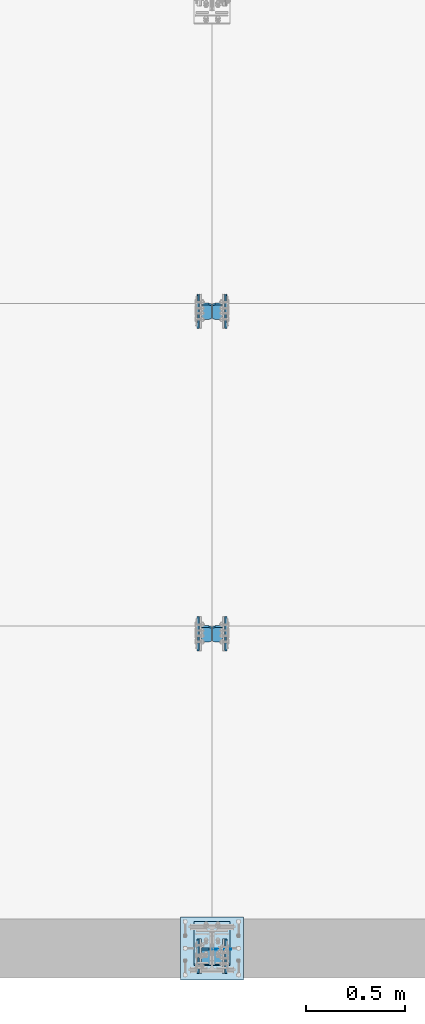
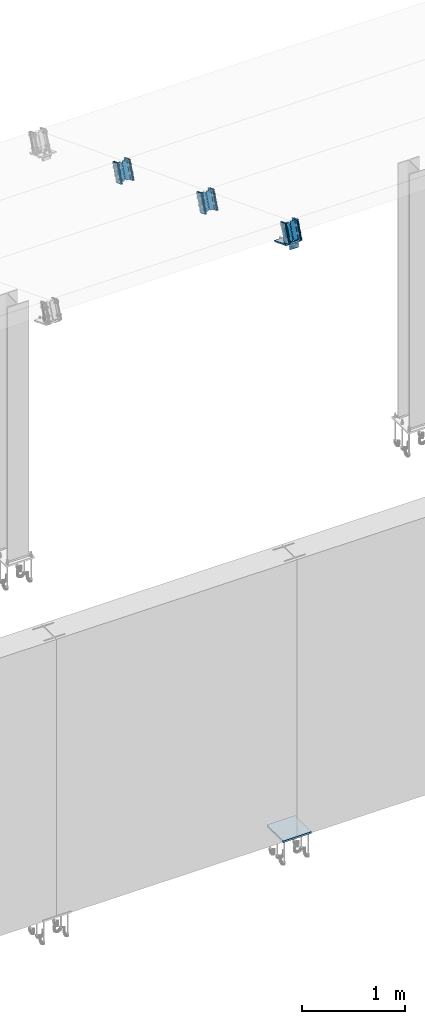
# One storey, part 5 of 72: 21 plates.
"""IFC4 building model written with IfcOpenShell, lengths in metres."""

from ifc_helpers import new_model, si_unit, frame, origin_with_axes, place, context, project, spatial, polyline, outline, extrude, type_object, element, save


model = new_model("IFC4")

# Units and contexts
model_context = context("Model", 3, precision=1e-05, world=origin_with_axes())
ifc_project = project(units=[si_unit("LENGTHUNIT", "METRE"), si_unit("AREAUNIT", "SQUARE_METRE"), si_unit("VOLUMEUNIT", "CUBIC_METRE"), si_unit("MASSUNIT", "GRAM", prefix="KILO"), si_unit("TIMEUNIT", "SECOND"), si_unit("PLANEANGLEUNIT", "RADIAN"), si_unit("SOLIDANGLEUNIT", "STERADIAN"), si_unit("THERMODYNAMICTEMPERATUREUNIT", "DEGREE_CELSIUS")], contexts=[model_context])

# Site, building, storey
placement_1 = place(None, origin_with_axes())
site = spatial("IfcSite", under=ifc_project, at=placement_1, Name="Italia", CompositionType="ELEMENT")
building = spatial("IfcBuilding", under=site, at=placement_1, Name="Uffici", CompositionType="ELEMENT")
storey = spatial("IfcBuildingStorey", under=building, at=placement_1, Name="Storey 0", CompositionType="ELEMENT", Elevation=0.0)

# Plates
plate_type_1 = type_object("IfcPlateType", Name="Collegamento -019_-018", PredefinedType="SHEET")
placement_2 = place(placement_1, origin_with_axes())
plate_1_placement = place(placement_2, origin_with_axes())
element("IfcPlate", 1, at=plate_1_placement, inside=storey, type_object=plate_type_1, Name="Collegamento -019_-018", context=model_context, shape_type="SweptSolid", body=[
    extrude(outline(polyline([(0.0, 0.0), (-0.0932386, 0.0361462), (-0.0137169, 0.241271), (0.0795217, 0.205125), (0.0, 0.0)])), frame((9.39, 3.23376, 5.75013), z_axis=(1.0, 0.0, 0.0), x_axis=(0.0, 1.0, 0.0)), (0.0, 0.0, 1.0), 0.0100002),
])
plate_type_2 = type_object("IfcPlateType", Name="Collegamento -019_-018", PredefinedType="SHEET")
plate_2_placement = place(placement_2, origin_with_axes())
element("IfcPlate", 2, at=plate_2_placement, inside=storey, type_object=plate_type_2, Name="Collegamento -019_-018", context=model_context, shape_type="SweptSolid", body=[
    extrude(outline(polyline([(0.0, 0.0), (-0.0932386, 0.0361462), (-0.0137169, 0.241271), (0.0795217, 0.205125), (0.0, 0.0)])), frame((9.38, 3.23376, 5.75013), z_axis=(1.0, 0.0, 0.0), x_axis=(0.0, 1.0, 0.0)), (0.0, 0.0, 1.0), 0.0100002),
])
plate_type_3 = type_object("IfcPlateType", Name="Collegamento -019_-018", PredefinedType="SHEET")
plate_3_placement = place(placement_2, origin_with_axes())
element("IfcPlate", 3, at=plate_3_placement, inside=storey, type_object=plate_type_3, Name="Collegamento -019_-018", context=model_context, shape_type="SweptSolid", body=[
    extrude(outline(polyline([(0.0, 0.0), (0.0400496, 0.0), (0.0520496, 0.0120006), (0.0520496, 0.189601), (0.0400496, 0.201601), (0.0, 0.201601), (0.0, 0.0)])), frame((9.4, 3.19513, 5.77498), z_axis=(0.0, -0.93237692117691, 0.361487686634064), x_axis=(1.0, 0.0, 0.0)), (0.0, 0.0, 1.0), 0.0100001),
])
plate_type_4 = type_object("IfcPlateType", Name="Collegamento -019_-020", PredefinedType="SHEET")
plate_4_placement = place(placement_2, origin_with_axes())
element("IfcPlate", 4, at=plate_4_placement, inside=storey, type_object=plate_type_4, Name="Collegamento -019_-020", context=model_context, shape_type="SweptSolid", body=[
    extrude(outline(polyline([(0.0, 0.0), (-0.0932386, -0.0361462), (-0.17276, 0.168979), (-0.0795217, 0.205125), (0.0, 0.0)])), frame((9.52, 3.14053, 5.78628), z_axis=(-1.0, 0.0, 0.0), x_axis=(0.0, -1.0, 0.0)), (0.0, 0.0, 1.0), 0.0100002),
])
plate_type_5 = type_object("IfcPlateType", Name="Collegamento -019_-020", PredefinedType="SHEET")
plate_5_placement = place(placement_2, origin_with_axes())
element("IfcPlate", 5, at=plate_5_placement, inside=storey, type_object=plate_type_5, Name="Collegamento -019_-020", context=model_context, shape_type="SweptSolid", body=[
    extrude(outline(polyline([(0.0, 0.0), (-0.0932386, -0.0361462), (-0.17276, 0.168979), (-0.0795217, 0.205125), (0.0, 0.0)])), frame((9.53, 3.14053, 5.78628), z_axis=(-1.0, 0.0, 0.0), x_axis=(0.0, -1.0, 0.0)), (0.0, 0.0, 1.0), 0.0100002),
])
plate_type_6 = type_object("IfcPlateType", Name="Collegamento -019_-020", PredefinedType="SHEET")
plate_6_placement = place(placement_2, origin_with_axes())
element("IfcPlate", 6, at=plate_6_placement, inside=storey, type_object=plate_type_6, Name="Collegamento -019_-020", context=model_context, shape_type="SweptSolid", body=[
    extrude(outline(polyline([(0.0, 0.0), (0.0400496, 0.0), (0.0520496, 0.0120001), (0.0520496, 0.1896), (0.0400496, 0.2016), (0.0, 0.2016), (0.0, 0.0)])), frame((9.51, 3.18581, 5.77859), z_axis=(0.0, 0.93237692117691, -0.361487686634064), x_axis=(-1.0, 0.0, 0.0)), (0.0, 0.0, 1.0), 0.0100001),
])
plate_type_7 = type_object("IfcPlateType", Name="Collegamento -029_-028", PredefinedType="SHEET")
plate_7_placement = place(placement_2, origin_with_axes())
element("IfcPlate", 7, at=plate_7_placement, inside=storey, type_object=plate_type_7, Name="Collegamento -029_-028", context=model_context, shape_type="SweptSolid", body=[
    extrude(outline(polyline([(0.0, 0.0), (-0.0932387, 0.0361462), (-0.0137168, 0.241272), (0.0795219, 0.205126), (0.0, 0.0)])), frame((9.39, 1.60043, 6.38347), z_axis=(1.0, 0.0, 0.0), x_axis=(0.0, 1.0, 0.0)), (0.0, 0.0, 1.0), 0.0100002),
])
plate_type_8 = type_object("IfcPlateType", Name="Collegamento -029_-028", PredefinedType="SHEET")
plate_8_placement = place(placement_2, origin_with_axes())
element("IfcPlate", 8, at=plate_8_placement, inside=storey, type_object=plate_type_8, Name="Collegamento -029_-028", context=model_context, shape_type="SweptSolid", body=[
    extrude(outline(polyline([(0.0, 0.0), (-0.0932387, 0.0361462), (-0.0137168, 0.241272), (0.0795219, 0.205126), (0.0, 0.0)])), frame((9.38, 1.60043, 6.38347), z_axis=(1.0, 0.0, 0.0), x_axis=(0.0, 1.0, 0.0)), (0.0, 0.0, 1.0), 0.0100002),
])
plate_type_9 = type_object("IfcPlateType", Name="Collegamento -029_-028", PredefinedType="SHEET")
plate_9_placement = place(placement_2, origin_with_axes())
element("IfcPlate", 9, at=plate_9_placement, inside=storey, type_object=plate_type_9, Name="Collegamento -029_-028", context=model_context, shape_type="SweptSolid", body=[
    extrude(outline(polyline([(0.0, 0.0), (0.0400496, 0.0), (0.0520496, 0.0120001), (0.0520496, 0.1896), (0.0400496, 0.2016), (0.0, 0.2016), (0.0, 0.0)])), frame((9.4, 1.5618, 6.40831), z_axis=(0.0, -0.93237692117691, 0.361487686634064), x_axis=(1.0, 0.0, 0.0)), (0.0, 0.0, 1.0), 0.0100001),
])
plate_type_10 = type_object("IfcPlateType", Name="Collegamento -029_-030", PredefinedType="SHEET")
plate_10_placement = place(placement_2, origin_with_axes())
element("IfcPlate", 10, at=plate_10_placement, inside=storey, type_object=plate_type_10, Name="Collegamento -029_-030", context=model_context, shape_type="SweptSolid", body=[
    extrude(outline(polyline([(0.0, 0.0), (-0.0932387, -0.0361462), (-0.172761, 0.16898), (-0.0795219, 0.205126), (0.0, 0.0)])), frame((9.52, 1.50719, 6.41961), z_axis=(-1.0, 0.0, 0.0), x_axis=(0.0, -1.0, 0.0)), (0.0, 0.0, 1.0), 0.0100002),
])
plate_type_11 = type_object("IfcPlateType", Name="Collegamento -029_-030", PredefinedType="SHEET")
plate_11_placement = place(placement_2, origin_with_axes())
element("IfcPlate", 11, at=plate_11_placement, inside=storey, type_object=plate_type_11, Name="Collegamento -029_-030", context=model_context, shape_type="SweptSolid", body=[
    extrude(outline(polyline([(0.0, 0.0), (-0.0932387, -0.0361462), (-0.172761, 0.16898), (-0.0795219, 0.205126), (0.0, 0.0)])), frame((9.53, 1.50719, 6.41961), z_axis=(-1.0, 0.0, 0.0), x_axis=(0.0, -1.0, 0.0)), (0.0, 0.0, 1.0), 0.0100002),
])
plate_type_12 = type_object("IfcPlateType", Name="Collegamento -029_-030", PredefinedType="SHEET")
plate_12_placement = place(placement_2, origin_with_axes())
element("IfcPlate", 12, at=plate_12_placement, inside=storey, type_object=plate_type_12, Name="Collegamento -029_-030", context=model_context, shape_type="SweptSolid", body=[
    extrude(outline(polyline([(0.0, 0.0), (0.0400496, 0.0), (0.0520496, 0.0119996), (0.0520496, 0.1896), (0.0400496, 0.2016), (0.0, 0.2016), (0.0, 0.0)])), frame((9.51, 1.55248, 6.41193), z_axis=(0.0, 0.93237692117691, -0.361487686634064), x_axis=(-1.0, 0.0, 0.0)), (0.0, 0.0, 1.0), 0.0100001),
])
plate_type_13 = type_object("IfcPlateType", Name="Collegamenti 0001_0101 0002_0102 0003_0103 0004_0104 0005_0105 0011_0111 0012_0112 0013_0113 0014_0114 0015_0115", PredefinedType="SHEET")
plate_13_placement = place(placement_2, origin_with_axes())
element("IfcPlate", 13, at=plate_13_placement, inside=storey, type_object=plate_type_13, Name="Collegamenti 0001_0101 0002_0102 0003_0103 0004_0104 0005_0105 0011_0111 0012_0112 0013_0113 0014_0114 0015_0115", context=model_context, shape_type="SweptSolid", body=[
    extrude(outline(polyline([(0.0, 0.0), (0.0, 0.32), (0.32, 0.32), (0.32, 0.0), (0.0, 0.0)])), frame((9.295, -0.16, 0.02), z_axis=(0.0, 0.0, -1.0), x_axis=(0.0, 1.0, 0.0)), (0.0, 0.0, 1.0), 0.02),
])
plate_type_14 = type_object("IfcPlateType", Name="Collegamento 0204_0104", PredefinedType="SHEET")
plate_14_placement = place(placement_2, origin_with_axes())
element("IfcPlate", 14, at=plate_14_placement, inside=storey, type_object=plate_type_14, Name="Collegamento 0204_0104", context=model_context, shape_type="SweptSolid", body=[
    extrude(outline(polyline([(0.0, 0.0), (0.18, 0.0), (0.18, -0.23341), (0.0, -0.23341), (0.0, 0.0)])), frame((9.545, -0.0855034, 7.02111), z_axis=(0.0, 0.361523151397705, 0.932363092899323), x_axis=(-1.0, 0.0, 0.0)), (0.0, 0.0, 1.0), 0.0150002),
])
plate_type_15 = type_object("IfcPlateType", Name="Collegamento 0204_0105", PredefinedType="SHEET")
plate_15_placement = place(placement_2, origin_with_axes())
element("IfcPlate", 15, at=plate_15_placement, inside=storey, type_object=plate_type_15, Name="Collegamento 0204_0105", context=model_context, shape_type="SweptSolid", body=[
    extrude(outline(polyline([(0.0, 0.0), (0.0949993, 4.76837e-07), (0.0949993, -0.099), (-9.53674e-07, -0.0989995), (0.0, 0.0)])), frame((9.553, -0.0075, 6.98887), z_axis=(0.0, 1.0, 0.0), x_axis=(-1.0, 0.0, 0.0)), (0.0, 0.0, 1.0), 0.005),
])
plate_type_16 = type_object("IfcPlateType", Name="Collegamento 0204_0203", PredefinedType="SHEET")
plate_16_placement = place(placement_2, origin_with_axes())
element("IfcPlate", 16, at=plate_16_placement, inside=storey, type_object=plate_type_16, Name="Collegamento 0204_0203", context=model_context, shape_type="SweptSolid", body=[
    extrude(outline(polyline([(0.0, 0.0), (-0.0932387, 0.0361462), (-0.0137157, 0.241275), (0.079523, 0.205129), (0.0, 0.0)])), frame((9.39, -0.0329024, 7.0168), z_axis=(1.0, 0.0, 0.0), x_axis=(0.0, 1.0, 0.0)), (0.0, 0.0, 1.0), 0.0100002),
])
plate_type_17 = type_object("IfcPlateType", Name="Collegamento 0204_0203", PredefinedType="SHEET")
plate_17_placement = place(placement_2, origin_with_axes())
element("IfcPlate", 17, at=plate_17_placement, inside=storey, type_object=plate_type_17, Name="Collegamento 0204_0203", context=model_context, shape_type="SweptSolid", body=[
    extrude(outline(polyline([(0.0, 0.0), (-0.0932387, 0.0361462), (-0.013717, 0.241272), (0.0795217, 0.205126), (0.0, 0.0)])), frame((9.38, -0.0329024, 7.0168), z_axis=(1.0, 0.0, 0.0), x_axis=(0.0, 1.0, 0.0)), (0.0, 0.0, 1.0), 0.0100002),
])
plate_type_18 = type_object("IfcPlateType", Name="Collegamento 0204_0203", PredefinedType="SHEET")
plate_18_placement = place(placement_2, origin_with_axes())
element("IfcPlate", 18, at=plate_18_placement, inside=storey, type_object=plate_type_18, Name="Collegamento 0204_0203", context=model_context, shape_type="SweptSolid", body=[
    extrude(outline(polyline([(0.0, 0.0), (0.0400496, 0.0), (0.0520496, 0.0119996), (0.0520496, 0.1896), (0.0400496, 0.201601), (0.0, 0.201601), (0.0, 0.0)])), frame((9.4, -0.0715331, 7.04165), z_axis=(0.0, -0.932393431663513, 0.36144495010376), x_axis=(1.0, 0.0, 0.0)), (0.0, 0.0, 1.0), 0.00999993),
])
plate_type_19 = type_object("IfcPlateType", Name="Collegamento 0204_0205", PredefinedType="SHEET")
plate_19_placement = place(placement_2, origin_with_axes())
element("IfcPlate", 19, at=plate_19_placement, inside=storey, type_object=plate_type_19, Name="Collegamento 0204_0205", context=model_context, shape_type="SweptSolid", body=[
    extrude(outline(polyline([(0.0, 0.0), (-0.0932387, -0.0361462), (-0.172762, 0.168983), (-0.0795231, 0.205129), (0.0, 0.0)])), frame((9.52, -0.126141, 7.05295), z_axis=(-1.0, 0.0, 0.0), x_axis=(0.0, -1.0, 0.0)), (0.0, 0.0, 1.0), 0.0100002),
])
plate_type_20 = type_object("IfcPlateType", Name="Collegamento 0204_0205", PredefinedType="SHEET")
plate_20_placement = place(placement_2, origin_with_axes())
element("IfcPlate", 20, at=plate_20_placement, inside=storey, type_object=plate_type_20, Name="Collegamento 0204_0205", context=model_context, shape_type="SweptSolid", body=[
    extrude(outline(polyline([(0.0, 0.0), (-0.0932387, -0.0361462), (-0.17276, 0.16898), (-0.0795217, 0.205126), (0.0, 0.0)])), frame((9.53, -0.126141, 7.05295), z_axis=(-1.0, 0.0, 0.0), x_axis=(0.0, -1.0, 0.0)), (0.0, 0.0, 1.0), 0.0100002),
])
plate_type_21 = type_object("IfcPlateType", Name="Collegamento 0204_0205", PredefinedType="SHEET")
plate_21_placement = place(placement_2, origin_with_axes())
element("IfcPlate", 21, at=plate_21_placement, inside=storey, type_object=plate_type_21, Name="Collegamento 0204_0205", context=model_context, shape_type="SweptSolid", body=[
    extrude(outline(polyline([(0.0, 0.0), (0.0400496, 0.0), (0.0520496, 0.0120006), (0.0520496, 0.189601), (0.0400496, 0.201601), (0.0, 0.201601), (0.0, 0.0)])), frame((9.51, -0.080857, 7.04526), z_axis=(0.0, 0.932393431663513, -0.36144495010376), x_axis=(-1.0, 0.0, 0.0)), (0.0, 0.0, 1.0), 0.00999993),
])

save(model, "model.ifc")
